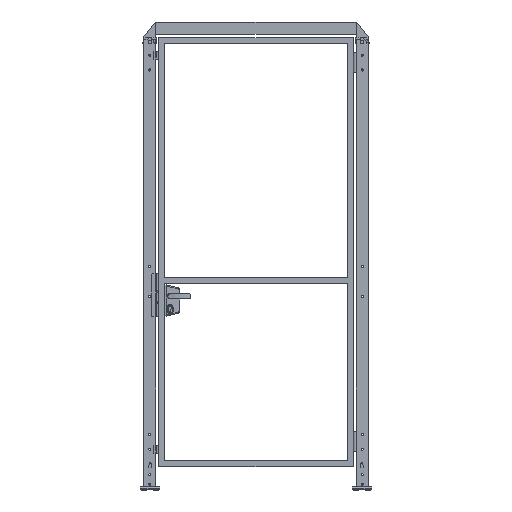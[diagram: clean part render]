
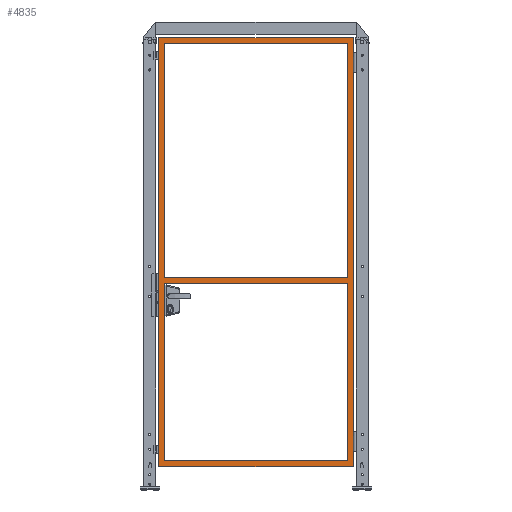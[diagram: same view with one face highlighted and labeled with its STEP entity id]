
A CAD part, top view. The second image highlights one B-rep face of the part: STEP entity #4835.
In plain terms, the highlighted planar face has unit normal (0, 0, 1).
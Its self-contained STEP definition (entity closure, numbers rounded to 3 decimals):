
#4835=ADVANCED_FACE('',(#9902,#9903,#9904),#9905,.F.);
#9902=FACE_BOUND('',#18248,.T.);
#9903=FACE_OUTER_BOUND('',#18249,.T.);
#9904=FACE_BOUND('',#18250,.T.);
#9905=PLANE('',#18251);
#18248=EDGE_LOOP('',(#32512,#32513,#32514,#32515));
#18249=EDGE_LOOP('',(#32516,#32517,#32518,#32519));
#18250=EDGE_LOOP('',(#32520,#32521,#32522,#32523));
#18251=AXIS2_PLACEMENT_3D('',#32524,#32525,#32526);
#32512=ORIENTED_EDGE('',*,*,#38409,.F.);
#32513=ORIENTED_EDGE('',*,*,#38415,.T.);
#32514=ORIENTED_EDGE('',*,*,#38437,.T.);
#32515=ORIENTED_EDGE('',*,*,#38442,.F.);
#32516=ORIENTED_EDGE('',*,*,#38453,.F.);
#32517=ORIENTED_EDGE('',*,*,#38447,.F.);
#32518=ORIENTED_EDGE('',*,*,#38417,.F.);
#32519=ORIENTED_EDGE('',*,*,#38451,.F.);
#32520=ORIENTED_EDGE('',*,*,#38439,.F.);
#32521=ORIENTED_EDGE('',*,*,#38434,.F.);
#32522=ORIENTED_EDGE('',*,*,#38445,.T.);
#32523=ORIENTED_EDGE('',*,*,#38454,.T.);
#32524=CARTESIAN_POINT('',(515.0,135.0,15.0));
#32525=DIRECTION('',(0.,0.0,-1.0));
#32526=DIRECTION('',(-1.0,0.0,0.));
#38409=EDGE_CURVE('',#47292,#47295,#47296,.T.);
#38415=EDGE_CURVE('',#47292,#47303,#47305,.T.);
#38417=EDGE_CURVE('',#47307,#47308,#47309,.T.);
#38434=EDGE_CURVE('',#47335,#47333,#47337,.T.);
#38437=EDGE_CURVE('',#47303,#47339,#47341,.T.);
#38439=EDGE_CURVE('',#47333,#47343,#47344,.T.);
#38442=EDGE_CURVE('',#47295,#47339,#47347,.T.);
#38445=EDGE_CURVE('',#47335,#47349,#47351,.T.);
#38447=EDGE_CURVE('',#47308,#47353,#47354,.T.);
#38451=EDGE_CURVE('',#47357,#47307,#47359,.T.);
#38453=EDGE_CURVE('',#47353,#47357,#47361,.T.);
#38454=EDGE_CURVE('',#47349,#47343,#47362,.T.);
#47292=VERTEX_POINT('',#61278);
#47295=VERTEX_POINT('',#61282);
#47296=LINE('',#61283,#61284);
#47303=VERTEX_POINT('',#61294);
#47305=LINE('',#61297,#61298);
#47307=VERTEX_POINT('',#61300);
#47308=VERTEX_POINT('',#61301);
#47309=LINE('',#61302,#61303);
#47333=VERTEX_POINT('',#61339);
#47335=VERTEX_POINT('',#61342);
#47337=LINE('',#61345,#61346);
#47339=VERTEX_POINT('',#61348);
#47341=LINE('',#61351,#61352);
#47343=VERTEX_POINT('',#61354);
#47344=LINE('',#61355,#61356);
#47347=LINE('',#61360,#61361);
#47349=VERTEX_POINT('',#61363);
#47351=LINE('',#61366,#61367);
#47353=VERTEX_POINT('',#61369);
#47354=LINE('',#61370,#61371);
#47357=VERTEX_POINT('',#61375);
#47359=LINE('',#61378,#61379);
#47361=LINE('',#61381,#61382);
#47362=LINE('',#61383,#61384);
#61278=CARTESIAN_POINT('',(985.0,2290.0,15.));
#61282=CARTESIAN_POINT('',(45.,2290.0,15.0));
#61283=CARTESIAN_POINT('',(515.0,2290.0,15.0));
#61284=VECTOR('',#67665,1.0);
#61294=CARTESIAN_POINT('',(985.0,1090.0,15.));
#61297=CARTESIAN_POINT('',(985.0,1220.0,15.));
#61298=VECTOR('',#67670,1.0);
#61300=CARTESIAN_POINT('',(15.0,120.0,15.0));
#61301=CARTESIAN_POINT('',(15.,2320.0,15.0));
#61302=CARTESIAN_POINT('',(15.0,135.0,15.0));
#61303=VECTOR('',#67671,1.0);
#61339=CARTESIAN_POINT('',(45.,1060.0,15.0));
#61342=CARTESIAN_POINT('',(985.0,1060.0,15.));
#61345=CARTESIAN_POINT('',(515.0,1060.0,15.0));
#61346=VECTOR('',#67686,1.0);
#61348=CARTESIAN_POINT('',(45.,1090.0,15.0));
#61351=CARTESIAN_POINT('',(515.0,1090.0,15.0));
#61352=VECTOR('',#67688,1.0);
#61354=CARTESIAN_POINT('',(45.0,150.0,15.0));
#61355=CARTESIAN_POINT('',(45.,1220.0,15.0));
#61356=VECTOR('',#67689,1.0);
#61360=CARTESIAN_POINT('',(45.,1220.0,15.0));
#61361=VECTOR('',#67691,1.0);
#61363=CARTESIAN_POINT('',(985.0,150.0,15.));
#61366=CARTESIAN_POINT('',(985.0,1220.0,15.));
#61367=VECTOR('',#67693,1.0);
#61369=CARTESIAN_POINT('',(1015.0,2320.0,15.));
#61370=CARTESIAN_POINT('',(30.,2320.0,15.0));
#61371=VECTOR('',#67694,1.0);
#61375=CARTESIAN_POINT('',(1015.0,120.0,15.));
#61378=CARTESIAN_POINT('',(515.0,120.0,15.0));
#61379=VECTOR('',#67697,1.0);
#61381=CARTESIAN_POINT('',(1015.0,1220.0,15.));
#61382=VECTOR('',#67698,1.0);
#61383=CARTESIAN_POINT('',(515.0,150.0,15.0));
#61384=VECTOR('',#67699,1.0);
#67665=DIRECTION('',(-1.0,0.0,0.));
#67670=DIRECTION('',(0.,-1.0,0.));
#67671=DIRECTION('',(0.0,1.0,0.0));
#67686=DIRECTION('',(-1.0,0.0,0.));
#67688=DIRECTION('',(-1.0,0.0,0.));
#67689=DIRECTION('',(0.,-1.0,0.));
#67691=DIRECTION('',(0.,-1.0,0.));
#67693=DIRECTION('',(0.,-1.0,0.));
#67694=DIRECTION('',(1.0,0.,0.));
#67697=DIRECTION('',(-1.0,0.0,0.));
#67698=DIRECTION('',(0.,-1.0,0.));
#67699=DIRECTION('',(-1.0,0.0,0.));
